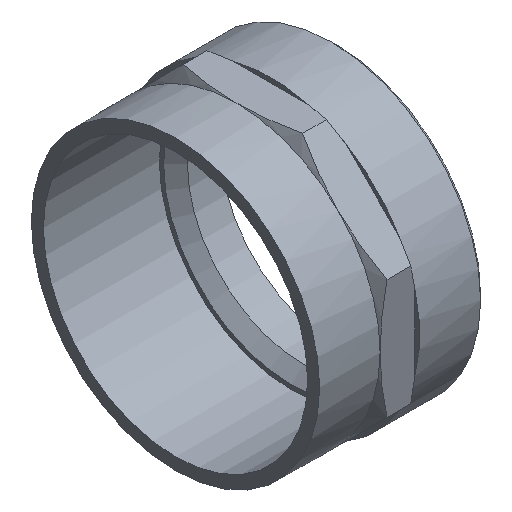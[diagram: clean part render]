
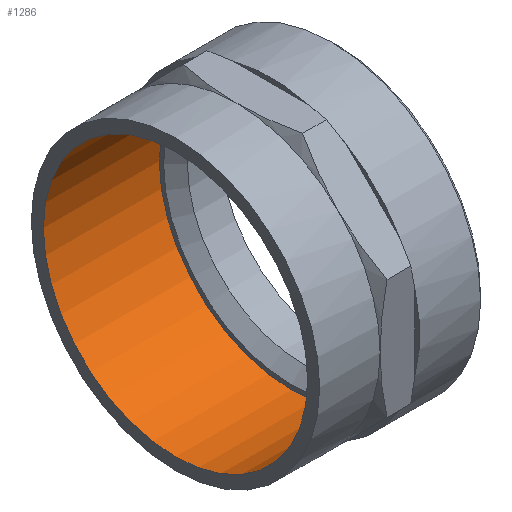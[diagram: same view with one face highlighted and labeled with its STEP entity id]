
A CAD part, isometric view. The second image highlights one B-rep face of the part: STEP entity #1286.
In plain terms, the highlighted cylindrical face has radius 44.45 mm (diameter 88.9 mm), a full revolution.
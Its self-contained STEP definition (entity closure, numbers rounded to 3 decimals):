
#1252=CARTESIAN_POINT('',(39.0,44.45,0.0));
#1253=VERTEX_POINT('',#1252);
#1254=CARTESIAN_POINT('',(39.,0.,0.0));
#1255=DIRECTION('',(-1.0,0.0,0.0));
#1256=DIRECTION('',(0.0,1.0,0.0));
#1257=AXIS2_PLACEMENT_3D('',#1254,#1255,#1256);
#1258=CIRCLE('',#1257,44.45);
#1259=EDGE_CURVE('',#1253,#1253,#1258,.T.);
#1267=CARTESIAN_POINT('',(19.5,0.,0.0));
#1268=DIRECTION('',(-1.0,0.,0.0));
#1269=DIRECTION('',(0.0,1.0,0.0));
#1270=AXIS2_PLACEMENT_3D('',#1267,#1268,#1269);
#1271=CYLINDRICAL_SURFACE('',#1270,44.45);
#1272=CARTESIAN_POINT('',(0.0,44.45,0.0));
#1273=VERTEX_POINT('',#1272);
#1274=CARTESIAN_POINT('',(0.,0.,0.0));
#1275=DIRECTION('',(1.0,0.0,0.0));
#1276=DIRECTION('',(0.0,1.0,0.0));
#1277=AXIS2_PLACEMENT_3D('',#1274,#1275,#1276);
#1278=CIRCLE('',#1277,44.45);
#1279=EDGE_CURVE('',#1273,#1273,#1278,.T.);
#1280=ORIENTED_EDGE('',*,*,#1279,.F.);
#1281=EDGE_LOOP('',(#1280));
#1282=FACE_OUTER_BOUND('',#1281,.T.);
#1283=ORIENTED_EDGE('',*,*,#1259,.F.);
#1284=EDGE_LOOP('',(#1283));
#1285=FACE_BOUND('',#1284,.T.);
#1286=ADVANCED_FACE('',(#1282,#1285),#1271,.F.);
